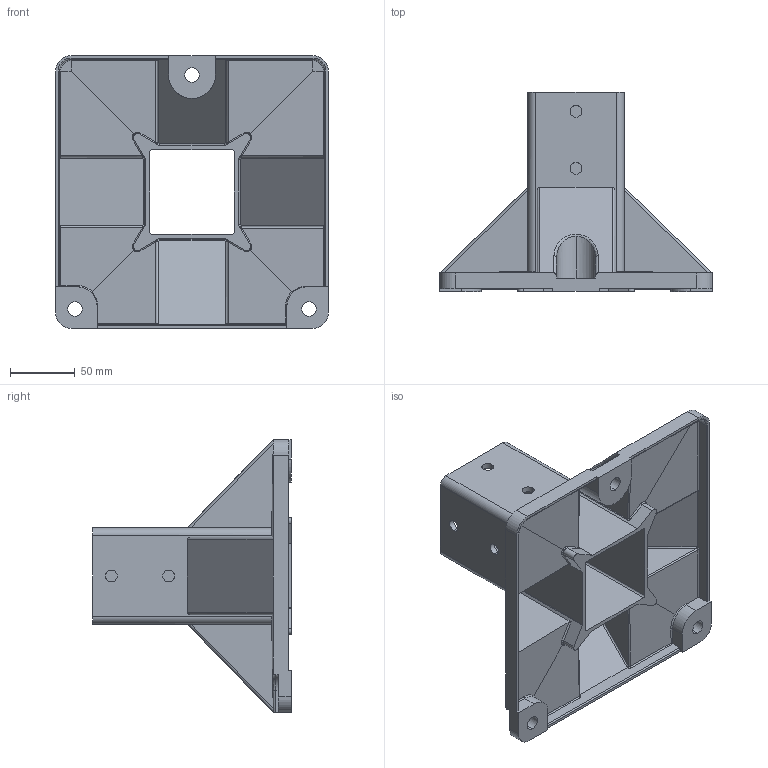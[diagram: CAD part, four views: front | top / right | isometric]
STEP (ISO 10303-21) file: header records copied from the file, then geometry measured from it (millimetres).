
FILE_DESCRIPTION (( 'STEP AP214' ), '1' );
FILE_NAME ('EC210 64.step', '2017-04-05T07:54:30', ( '' ), ( '' ), 'SwSTEP 2.0', 'SolidWorks 2015', '' );
FILE_SCHEMA (( 'AUTOMOTIVE_DESIGN' ));
Length unit declared in the file: millimetre
Products named in the file (1): EC210 64
Bounding box: 210 x 153 x 210 mm (x, y, z)
Volume: 394140.1 mm3; surface area: 227264.8 mm2
Topology: 1 solids, 1 shells, 269 faces, 702 edges, 430 vertices
Faces by surface type: cylinder 124, plane 92, bspline 37, sphere 8, cone 4, torus 4
Entity records: 8992 total; most frequent: CARTESIAN_POINT 2851, ORIENTED_EDGE 1394, DIRECTION 1176, EDGE_CURVE 697, VERTEX_POINT 430, AXIS2_PLACEMENT_3D 397, VECTOR 382, LINE 382
